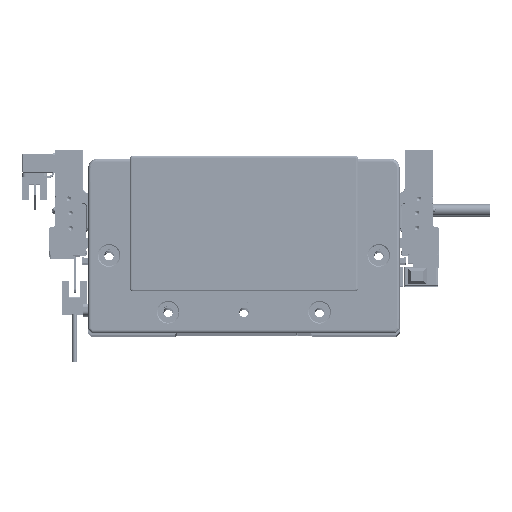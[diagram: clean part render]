
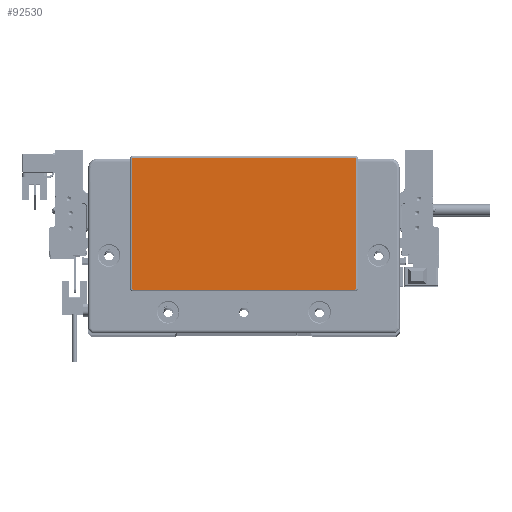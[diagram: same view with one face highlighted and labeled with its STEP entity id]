
A CAD part, top view. The second image highlights one B-rep face of the part: STEP entity #92530.
In plain terms, the highlighted planar face has unit normal (0, 0, 1) as drawn and (0, 0, -1) by its records, which use the part's own axes.
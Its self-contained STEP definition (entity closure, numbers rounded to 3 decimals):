
#3510 = DIRECTION ( 'NONE',  ( 0., 0., -1. ) ) ;
#3656 = ORIENTED_EDGE ( 'NONE', *, *, #97925, .T. ) ;
#3876 = LINE ( 'NONE', #10545, #45959 ) ;
#5340 = VECTOR ( 'NONE', #94571, 1000. ) ;
#6883 = EDGE_LOOP ( 'NONE', ( #45763, #74108, #16192, #99654, #3656, #45974, #22156, #11187 ) ) ;
#7451 = CARTESIAN_POINT ( 'NONE',  ( -58.75, -23.8, -2. ) ) ;
#8459 = DIRECTION ( 'NONE',  ( 0., 0., -1. ) ) ;
#9121 = EDGE_CURVE ( 'NONE', #20988, #71825, #97159, .T. ) ;
#9633 = VERTEX_POINT ( 'NONE', #7451 ) ;
#10149 = LINE ( 'NONE', #32793, #5340 ) ;
#10545 = CARTESIAN_POINT ( 'NONE',  ( 59.25, -23.3, -2. ) ) ;
#11187 = ORIENTED_EDGE ( 'NONE', *, *, #26715, .T. ) ;
#11295 = CIRCLE ( 'NONE', #78725, 0.5 ) ;
#12168 = PLANE ( 'NONE',  #33509 ) ;
#12594 = DIRECTION ( 'NONE',  ( -1., 0., 0. ) ) ;
#13098 = VECTOR ( 'NONE', #67300, 1000. ) ;
#14344 = CARTESIAN_POINT ( 'NONE',  ( 59.25, 45.3, -2. ) ) ;
#15323 = EDGE_CURVE ( 'NONE', #80005, #39364, #72129, .T. ) ;
#15678 = CARTESIAN_POINT ( 'NONE',  ( -58.75, -23.3, -2. ) ) ;
#16192 = ORIENTED_EDGE ( 'NONE', *, *, #98509, .T. ) ;
#20988 = VERTEX_POINT ( 'NONE', #22791 ) ;
#22156 = ORIENTED_EDGE ( 'NONE', *, *, #9121, .T. ) ;
#22791 = CARTESIAN_POINT ( 'NONE',  ( -58.75, 45.8, -2. ) ) ;
#25238 = AXIS2_PLACEMENT_3D ( 'NONE', #92307, #101529, #52679 ) ;
#26239 = VERTEX_POINT ( 'NONE', #43952 ) ;
#26715 = EDGE_CURVE ( 'NONE', #71825, #27546, #36720, .T. ) ;
#27148 = DIRECTION ( 'NONE',  ( -1., 0., 0. ) ) ;
#27546 = VERTEX_POINT ( 'NONE', #14344 ) ;
#27790 = AXIS2_PLACEMENT_3D ( 'NONE', #89372, #83059, #12594 ) ;
#32793 = CARTESIAN_POINT ( 'NONE',  ( -59.25, 45.3, -2. ) ) ;
#33509 = AXIS2_PLACEMENT_3D ( 'NONE', #34305, #59004, #58503 ) ;
#33850 = CARTESIAN_POINT ( 'NONE',  ( -58.75, 45.3, -2. ) ) ;
#34305 = CARTESIAN_POINT ( 'NONE',  ( 0., 0., -2. ) ) ;
#36720 = CIRCLE ( 'NONE', #25238, 0.5 ) ;
#39364 = VERTEX_POINT ( 'NONE', #51684 ) ;
#41617 = CARTESIAN_POINT ( 'NONE',  ( 58.75, 45.8, -2. ) ) ;
#43952 = CARTESIAN_POINT ( 'NONE',  ( -59.25, 45.3, -2. ) ) ;
#44347 = CARTESIAN_POINT ( 'NONE',  ( 59.25, -23.3, -2. ) ) ;
#45763 = ORIENTED_EDGE ( 'NONE', *, *, #77371, .T. ) ;
#45959 = VECTOR ( 'NONE', #97000, 1000. ) ;
#45974 = ORIENTED_EDGE ( 'NONE', *, *, #57764, .T. ) ;
#51684 = CARTESIAN_POINT ( 'NONE',  ( 58.75, -23.8, -2. ) ) ;
#52679 = DIRECTION ( 'NONE',  ( -1., 0., 0. ) ) ;
#57486 = FACE_OUTER_BOUND ( 'NONE', #6883, .T. ) ;
#57764 = EDGE_CURVE ( 'NONE', #26239, #20988, #67061, .T. ) ;
#58503 = DIRECTION ( 'NONE',  ( -1., 0., 0. ) ) ;
#59004 = DIRECTION ( 'NONE',  ( 0., 0., -1. ) ) ;
#59672 = EDGE_CURVE ( 'NONE', #9633, #67810, #11295, .T. ) ;
#67061 = CIRCLE ( 'NONE', #90037, 0.5 ) ;
#67300 = DIRECTION ( 'NONE',  ( 1., 0., 0. ) ) ;
#67790 = CARTESIAN_POINT ( 'NONE',  ( 58.75, 45.8, -2. ) ) ;
#67810 = VERTEX_POINT ( 'NONE', #86291 ) ;
#67824 = LINE ( 'NONE', #99220, #87293 ) ;
#70718 = DIRECTION ( 'NONE',  ( -1., 0., 0. ) ) ;
#71825 = VERTEX_POINT ( 'NONE', #41617 ) ;
#72129 = CIRCLE ( 'NONE', #27790, 0.5 ) ;
#74108 = ORIENTED_EDGE ( 'NONE', *, *, #15323, .T. ) ;
#77371 = EDGE_CURVE ( 'NONE', #27546, #80005, #3876, .T. ) ;
#78725 = AXIS2_PLACEMENT_3D ( 'NONE', #15678, #8459, #70718 ) ;
#80005 = VERTEX_POINT ( 'NONE', #44347 ) ;
#83059 = DIRECTION ( 'NONE',  ( 0., 0., -1. ) ) ;
#86291 = CARTESIAN_POINT ( 'NONE',  ( -59.25, -23.3, -2. ) ) ;
#87293 = VECTOR ( 'NONE', #100243, 1000. ) ;
#89372 = CARTESIAN_POINT ( 'NONE',  ( 58.75, -23.3, -2. ) ) ;
#90037 = AXIS2_PLACEMENT_3D ( 'NONE', #33850, #3510, #27148 ) ;
#92307 = CARTESIAN_POINT ( 'NONE',  ( 58.75, 45.3, -2. ) ) ;
#92530 = ADVANCED_FACE ( 'NONE', ( #57486 ), #12168, .T. ) ;
#94571 = DIRECTION ( 'NONE',  ( 0., 1., 0. ) ) ;
#97000 = DIRECTION ( 'NONE',  ( 0., -1., 0. ) ) ;
#97159 = LINE ( 'NONE', #67790, #13098 ) ;
#97925 = EDGE_CURVE ( 'NONE', #67810, #26239, #10149, .T. ) ;
#98509 = EDGE_CURVE ( 'NONE', #39364, #9633, #67824, .T. ) ;
#99220 = CARTESIAN_POINT ( 'NONE',  ( -58.75, -23.8, -2. ) ) ;
#99654 = ORIENTED_EDGE ( 'NONE', *, *, #59672, .T. ) ;
#100243 = DIRECTION ( 'NONE',  ( -1., 0., 0. ) ) ;
#101529 = DIRECTION ( 'NONE',  ( 0., 0., -1. ) ) ;
